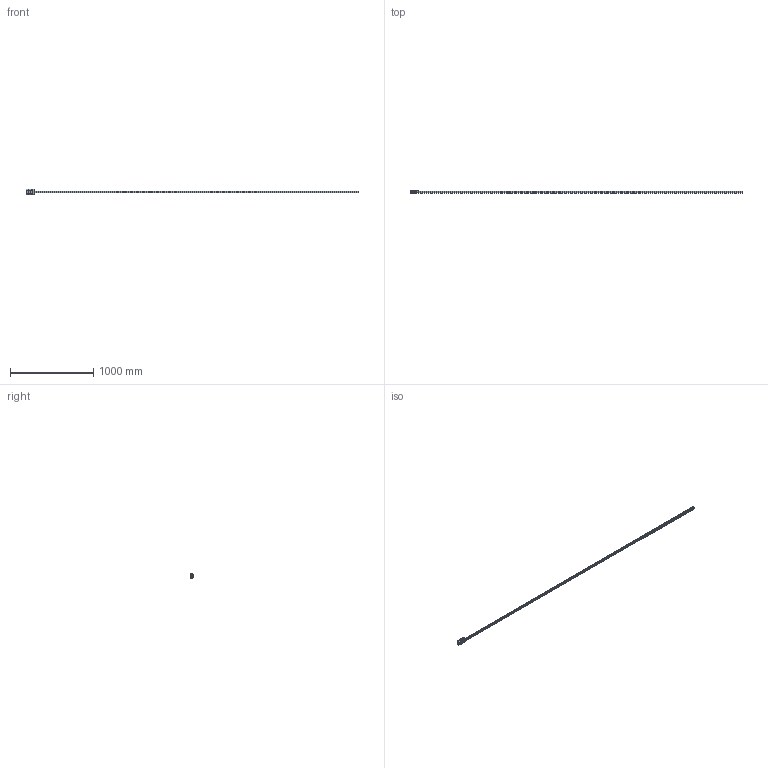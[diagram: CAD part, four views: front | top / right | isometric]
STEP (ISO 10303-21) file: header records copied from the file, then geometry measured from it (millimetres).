
FILE_DESCRIPTION( ( 'STEP AP203' ), '1' );
FILE_NAME( 'p:/temp/worker_9/temp/exporttempdir_1712_371_rjPSP/format_0/FDA20 84441A_4000-0.stp', '2021-02-04T01:46:04', ( 'License CC BY-ND 4.0' ), ( 'CADENAS' ), ' ', 'PARTsolutions', ' ' );
FILE_SCHEMA( ( 'CONFIG_CONTROL_DESIGN' ) );
Length unit declared in the file: millimetre
Products named in the file (3): FDA20 84441A_4000-0; _FD_20K-4000-0; _FD_20K Rollenhalter
Assembly tree (2 placements, depth 2):
  FDA20 84441A_4000-0
    _FD_20K-4000-0
    _FD_20K Rollenhalter
Bounding box: 4000 x 30 x 63 mm (x, y, z)
Volume: 1542562.8 mm3; surface area: 492654.6 mm2
Topology: 2 solids, 2 shells, 710 faces, 1866 edges, 1260 vertices
Faces by surface type: plane 393, cylinder 306, torus 8, cone 3
Full cylindrical faces by diameter (mm): 3.25 x1, 4.917 x4, 5.5 x67, 6.6 x4, 8.5 x8, 10 x75
Entity records: 20995 total; most frequent: DIRECTION 3657, CARTESIAN_POINT 3579, ORIENTED_EDGE 3242, EDGE_CURVE 1621, AXIS2_PLACEMENT_3D 1334, VERTEX_POINT 1182, EDGE_LOOP 1121, LINE 989
